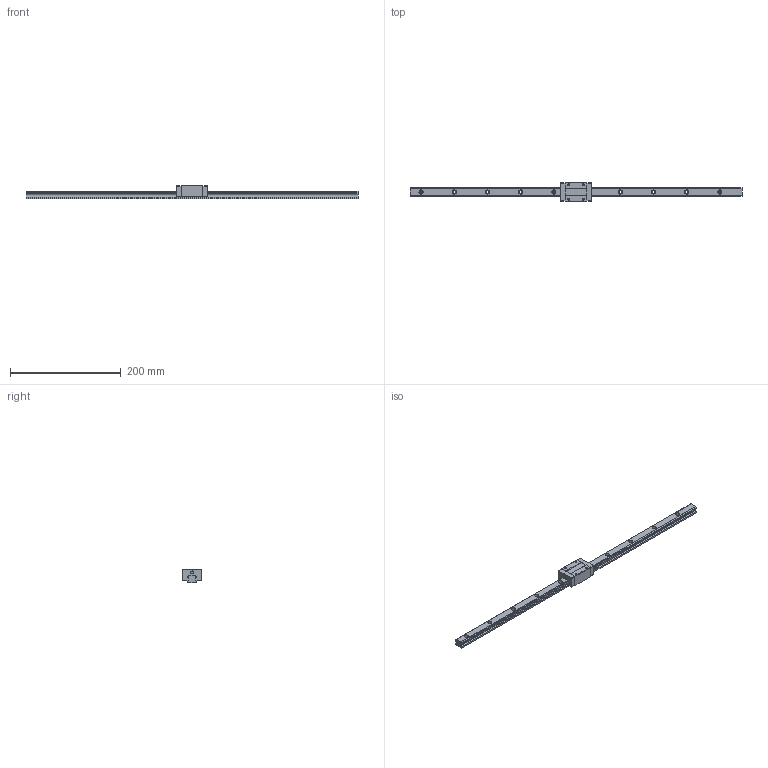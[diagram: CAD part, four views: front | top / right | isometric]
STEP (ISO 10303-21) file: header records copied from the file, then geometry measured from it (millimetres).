
FILE_DESCRIPTION (( 'STEP AP203' ), '1' );
FILE_NAME ('TRS15VN-XNC.STEP', '2024-08-16T07:13:18', ( '' ), ( '' ), 'SwSTEP 2.0', 'SolidWorks 2021', '' );
FILE_SCHEMA (( 'CONFIG_CONTROL_DESIGN' ));
Length unit declared in the file: millimetre
Products named in the file (1): TRS15VN-XNC
Bounding box: 600 x 34 x 24 mm (x, y, z)
Volume: 131918.9 mm3; surface area: 44787.9 mm2
Topology: 1 solids, 1 shells, 177 faces, 476 edges, 314 vertices
Faces by surface type: plane 89, cylinder 88
Entity records: 5709 total; most frequent: DIRECTION 1010, CARTESIAN_POINT 968, ORIENTED_EDGE 952, EDGE_CURVE 476, AXIS2_PLACEMENT_3D 356, VERTEX_POINT 314, LINE 298, VECTOR 298
